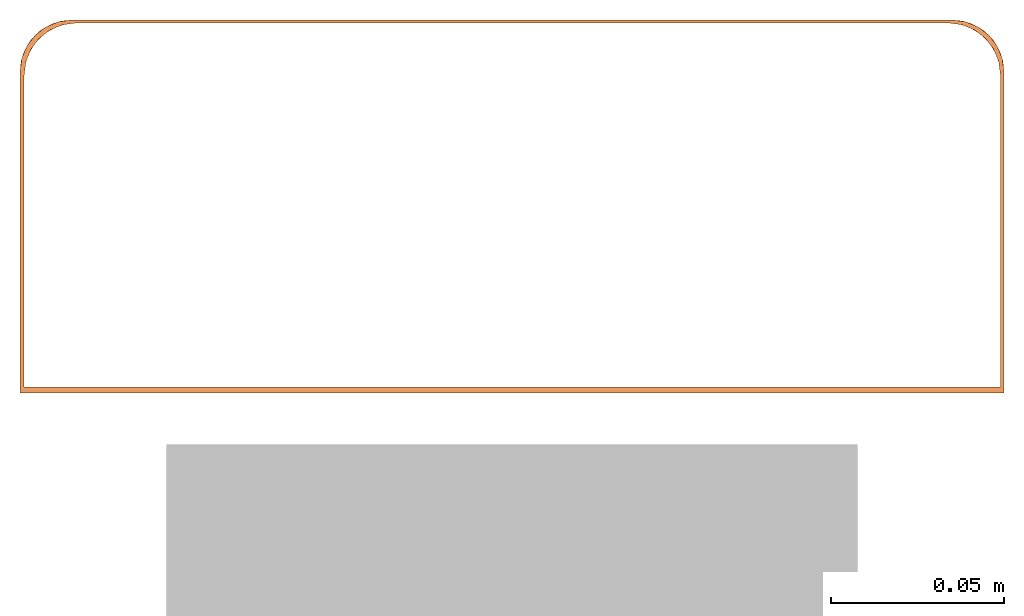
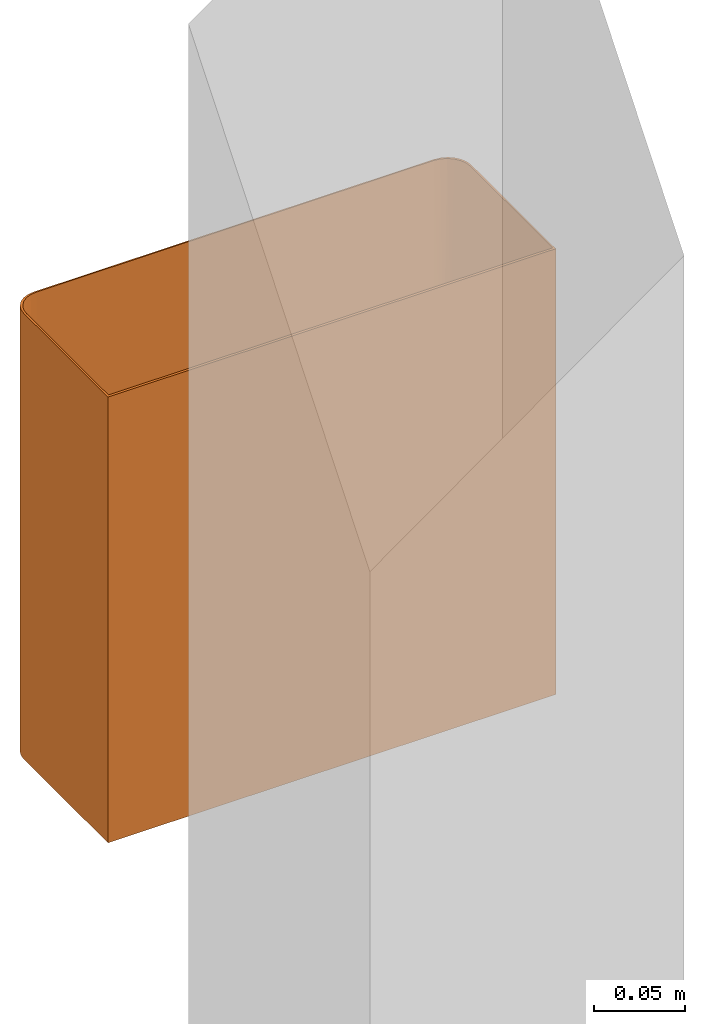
# One storey, part 2 of 2: 1 proxy.
"""IFC2X3 building model written with IfcOpenShell, lengths in millimetres."""

from ifc_helpers import new_model, entity, si_unit, converted_unit, derived_unit, direction, frame, origin, place, context, subcontext, project, spatial, faceted_brep, source, transform, mapped, element, save


model = new_model("IFC2X3")

# Units and contexts
model_context = context("Model", 3, precision=0.01, world=origin(), true_north=direction((6.12303176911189e-17, 1.0)))
context_of_model = context(None, 3, precision=0.01, world=origin(), true_north=direction((6.12303176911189e-17, 1.0)))
body_context = subcontext(model_context, "Body", "Model", "MODEL_VIEW")
ifc_project = project(units=[si_unit("LENGTHUNIT", "METRE", prefix="MILLI"), si_unit("AREAUNIT", "SQUARE_METRE"), si_unit("VOLUMEUNIT", "CUBIC_METRE"), converted_unit("PLANEANGLEUNIT", "DEGREE", entity("IfcRatioMeasure", 0.0174532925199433), si_unit("PLANEANGLEUNIT", "RADIAN"), dimensions=[0, 0, 0, 0, 0, 0, 0]), si_unit("MASSUNIT", "GRAM", prefix="KILO"), si_unit("TIMEUNIT", "SECOND"), si_unit("FREQUENCYUNIT", "HERTZ"), si_unit("THERMODYNAMICTEMPERATUREUNIT", "DEGREE_CELSIUS"), derived_unit("THERMALTRANSMITTANCEUNIT", [(si_unit("MASSUNIT", "GRAM", prefix="KILO"), 1), (si_unit("THERMODYNAMICTEMPERATUREUNIT", "KELVIN"), -1), (si_unit("TIMEUNIT", "SECOND"), -3)]), derived_unit("VOLUMETRICFLOWRATEUNIT", [(si_unit("LENGTHUNIT", "METRE"), 3), (si_unit("TIMEUNIT", "SECOND"), -1)]), si_unit("ELECTRICCURRENTUNIT", "AMPERE"), si_unit("ELECTRICVOLTAGEUNIT", "VOLT"), si_unit("POWERUNIT", "WATT"), si_unit("FORCEUNIT", "NEWTON", prefix="KILO"), si_unit("ILLUMINANCEUNIT", "LUX"), si_unit("LUMINOUSFLUXUNIT", "LUMEN"), si_unit("LUMINOUSINTENSITYUNIT", "CANDELA"), si_unit("PRESSUREUNIT", "PASCAL")], contexts=[model_context, context_of_model])

# Site, building, storey
site_placement = place(None, origin())
site = spatial("IfcSite", under=ifc_project, at=site_placement, Name="Default", CompositionType="ELEMENT")
building_placement = place(site_placement, origin())
building = spatial("IfcBuilding", under=site, at=building_placement, CompositionType="ELEMENT")
storey_placement = place(building_placement, origin())
storey = spatial("IfcBuildingStorey", under=building, at=storey_placement, Name="Level 1", CompositionType="ELEMENT", Elevation=0.0)

# Proxy
shared_shape = source(origin(), body_context, "Body", "Brep", [
    faceted_brep([(286.595272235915, 0.0, 301.595272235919), (286.595272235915, 93.0, 301.595272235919), (285.54516481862, 1.64446782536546, 301.595272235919), (2.82583737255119, 1.64446782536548, 301.595272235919), (1.595272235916, 0.0, 301.595272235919), (285.54516481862, 92.1228222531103, 301.595272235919), (285.034052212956, 96.0051079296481, 301.595272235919), (286.084159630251, 96.8822856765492, 301.595272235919), (283.535545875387, 99.6228222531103, 301.595272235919), (284.585653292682, 100.500000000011, 301.595272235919), (281.151766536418, 102.729423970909, 301.595272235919), (282.201873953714, 103.60660171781, 301.595272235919), (279.095272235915, 105.990381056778, 301.595272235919), (278.04516481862, 105.113203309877, 301.595272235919), (275.477557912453, 107.488887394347, 301.595272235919), (274.427450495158, 106.611709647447, 301.595272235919), (271.595272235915, 108.0, 301.595272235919), (270.54516481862, 107.122822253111, 301.595272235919), (17.8258373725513, 107.122822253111, 301.595272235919), (16.5952722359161, 108.0, 301.595272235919), (13.9435516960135, 106.611709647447, 301.595272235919), (12.7129865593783, 107.488887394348, 301.595272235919), (10.3258373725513, 105.113203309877, 301.595272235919), (9.09527223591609, 105.990381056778, 301.595272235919), (7.2192356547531, 102.729423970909, 301.595272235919), (5.98867051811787, 103.60660171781, 301.595272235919), (4.8354563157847, 99.6228222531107, 301.595272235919), (3.60489117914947, 100.500000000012, 301.595272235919), (2.10638484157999, 96.8822856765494, 301.595272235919), (3.33694997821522, 96.0051079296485, 301.595272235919), (1.595272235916, 93.0, 301.595272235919), (2.82583737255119, 92.1228222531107, 301.595272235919), (270.54516481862, 107.122822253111, 1.59527223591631), (189.095272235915, 107.122822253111, 1.59527223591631), (189.095272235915, 108.0, 1.59527223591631), (271.595272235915, 108.0, 1.59527223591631), (275.477557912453, 107.488887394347, 1.59527223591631), (279.095272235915, 105.990381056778, 1.59527223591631), (282.201873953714, 103.60660171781, 1.59527223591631), (284.585653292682, 100.500000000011, 1.59527223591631), (286.084159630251, 96.8822856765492, 1.59527223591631), (286.595272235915, 93.0, 1.59527223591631), (286.595272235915, 0.0, 1.59527223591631), (1.595272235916, 0.0, 1.59527223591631), (1.595272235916, 93.0, 1.59527223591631), (2.10638484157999, 96.8822856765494, 1.59527223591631), (3.60489117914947, 100.500000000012, 1.59527223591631), (5.98867051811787, 103.60660171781, 1.59527223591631), (9.09527223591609, 105.990381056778, 1.59527223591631), (12.7129865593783, 107.488887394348, 1.59527223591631), (16.595272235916, 108.0, 1.59527223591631), (99.0952722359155, 108.0, 1.59527223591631), (99.0952722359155, 107.122822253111, 1.59527223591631), (17.8258373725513, 107.122822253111, 1.59527223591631), (13.9435516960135, 106.611709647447, 1.59527223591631), (10.3258373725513, 105.113203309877, 1.59527223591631), (7.2192356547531, 102.729423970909, 1.59527223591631), (4.8354563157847, 99.6228222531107, 1.59527223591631), (3.33694997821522, 96.0051079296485, 1.59527223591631), (2.82583737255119, 92.1228222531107, 1.59527223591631), (2.82583737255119, 1.64446782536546, 1.59527223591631), (285.54516481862, 1.64446782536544, 1.59527223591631), (285.54516481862, 92.1228222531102, 1.59527223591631), (285.034052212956, 96.0051079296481, 1.59527223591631), (283.535545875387, 99.6228222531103, 1.59527223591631), (281.151766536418, 102.729423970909, 1.59527223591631), (278.04516481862, 105.113203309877, 1.59527223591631), (274.427450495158, 106.611709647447, 1.59527223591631), (286.595272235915, 93.0, 151.595272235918), (285.453465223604, 98.7402514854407, 151.595272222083), (277.335523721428, 106.858192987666, 151.595272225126), (280.726693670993, 104.900300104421, 89.7924200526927), (280.726693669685, 104.900300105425, 194.579441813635), (283.495572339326, 102.13142143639, 213.398124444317), (283.495572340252, 102.131421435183, 108.61110270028), (286.307051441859, 95.9263548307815, 97.9391592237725), (274.521627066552, 107.711779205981, 205.251385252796), (286.307051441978, 95.9263548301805, 191.89434677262), (271.595272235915, 108.0, 151.595272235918), (274.521627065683, 107.711779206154, 111.29619776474), (154.701873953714, 108.0, 181.444035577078), (151.595272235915, 108.0, 183.827814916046), (157.085653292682, 108.0, 178.337433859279), (147.977557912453, 108.0, 185.326321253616), (144.095272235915, 108.0, 185.837433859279), (158.584159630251, 108.0, 174.719719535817), (159.095272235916, 108.0, 170.83743385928), (158.584159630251, 108.0, 166.955148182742), (157.085653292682, 108.0, 163.337433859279), (175.91507738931, 108.0, 33.4150773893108), (179.490746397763, 108.0, 28.7551748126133), (183.066415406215, 108.0, 24.0952722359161), (185.31417491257, 108.0, 18.6687007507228), (187.561934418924, 108.0, 13.2421292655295), (188.32860332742, 108.0, 7.41870075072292), (154.701873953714, 108.0, 160.230832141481), (171.255174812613, 108.0, 36.9907463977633), (166.595272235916, 108.0, 40.566415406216), (151.595272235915, 108.0, 157.847052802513), (161.168700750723, 108.0, 42.8141749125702), (155.742129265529, 108.0, 45.0619344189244), (147.977557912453, 108.0, 156.348546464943), (149.918700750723, 108.0, 45.8286033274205), (144.095272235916, 108.0, 46.5952722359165), (144.095272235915, 108.0, 155.837433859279), (140.212986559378, 108.0, 156.348546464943), (138.271843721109, 108.0, 45.8286033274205), (132.448415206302, 108.0, 45.0619344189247), (136.595272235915, 108.0, 157.847052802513), (127.021843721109, 108.0, 42.8141749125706), (121.595272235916, 108.0, 40.5664154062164), (133.488670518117, 108.0, 160.230832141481), (116.935369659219, 108.0, 36.990746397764), (112.275467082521, 108.0, 33.4150773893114), (131.104891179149, 108.0, 163.337433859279), (108.699798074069, 108.0, 28.7551748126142), (105.124129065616, 108.0, 24.0952722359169), (102.876369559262, 108.0, 18.6687007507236), (100.628610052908, 108.0, 13.2421292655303), (99.8619411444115, 108.0, 7.41870075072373), (129.606384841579, 108.0, 166.955148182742), (129.095272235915, 108.0, 170.837433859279), (16.5952722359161, 108.0, 151.595296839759), (140.212986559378, 108.0, 185.326321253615), (136.595272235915, 108.0, 183.827814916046), (133.488670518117, 108.0, 181.444035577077), (131.104891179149, 108.0, 178.337433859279), (129.606384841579, 108.0, 174.719719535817), (10.8550207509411, 106.858192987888, 151.595272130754), (2.73707924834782, 98.740251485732, 151.595272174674), (4.69497213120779, 102.1314214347, 89.7924199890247), (4.69497212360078, 102.131421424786, 194.579441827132), (7.46385078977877, 104.900300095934, 213.398124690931), (7.46385080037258, 104.900300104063, 108.611102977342), (13.6689173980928, 107.711779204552, 97.9391595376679), (1.88349303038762, 95.9263548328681, 205.251385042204), (13.6689174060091, 107.711779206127, 191.894348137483), (1.595272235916, 93.0, 151.595499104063), (1.88349302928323, 95.9263548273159, 111.296196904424), (285.54516481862, 92.1228222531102, 151.595272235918), (284.403357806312, 97.863073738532, 151.595272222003), (279.676586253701, 104.023122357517, 89.7924200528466), (276.285416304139, 105.981015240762, 151.595272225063), (282.445464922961, 101.254243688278, 108.611102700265), (282.445464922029, 101.254243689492, 213.398124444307), (279.676586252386, 104.023122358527, 194.579441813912), (285.256944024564, 95.0491770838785, 97.9391592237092), (273.471519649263, 106.834601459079, 205.251385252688), (285.256944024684, 95.0491770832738, 191.894346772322), (273.471519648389, 106.834601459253, 111.296197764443), (270.54516481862, 107.122822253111, 151.595272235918), (151.595272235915, 107.122822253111, 183.827814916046), (154.701873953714, 107.122822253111, 181.444035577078), (147.977557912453, 107.122822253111, 185.326321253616), (157.085653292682, 107.122822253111, 178.337433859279), (158.584159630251, 107.122822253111, 174.719719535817), (159.095272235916, 107.122822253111, 170.837433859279), (158.584159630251, 107.122822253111, 166.955148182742), (157.085653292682, 107.122822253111, 163.337433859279), (175.91507738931, 107.122822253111, 33.4150773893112), (154.701873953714, 107.122822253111, 160.230832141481), (171.255174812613, 107.122822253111, 36.9907463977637), (166.595272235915, 107.122822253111, 40.5664154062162), (151.595272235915, 107.122822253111, 157.847052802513), (161.168700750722, 107.122822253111, 42.8141749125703), (155.742129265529, 107.122822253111, 45.0619344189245), (147.977557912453, 107.122822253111, 156.348546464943), (149.918700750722, 107.122822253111, 45.8286033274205), (144.095272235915, 107.122822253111, 46.5952722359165), (144.095272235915, 107.122822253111, 155.837433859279), (140.212986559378, 107.122822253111, 156.348546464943), (138.271843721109, 107.122822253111, 45.8286033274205), (132.448415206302, 107.122822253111, 45.0619344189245), (136.595272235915, 107.122822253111, 157.847052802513), (127.021843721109, 107.122822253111, 42.8141749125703), (121.595272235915, 107.122822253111, 40.5664154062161), (133.488670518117, 107.122822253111, 160.230832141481), (116.935369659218, 107.122822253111, 36.9907463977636), (112.275467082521, 107.122822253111, 33.415077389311), (131.104891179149, 107.122822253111, 163.337433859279), (129.606384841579, 107.122822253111, 166.955148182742), (129.095272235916, 107.122822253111, 170.837433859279), (17.8258373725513, 107.122822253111, 151.595272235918), (129.606384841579, 107.122822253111, 174.719719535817), (131.104891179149, 107.122822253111, 178.337433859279), (133.488670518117, 107.122822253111, 181.444035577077), (136.595272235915, 107.122822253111, 183.827814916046), (140.212986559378, 107.122822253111, 185.326321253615), (144.095272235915, 107.122822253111, 185.837433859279), (108.699798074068, 107.122822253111, 28.7551748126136), (105.124129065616, 107.122822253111, 24.0952722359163), (102.876369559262, 107.122822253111, 18.6687007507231), (100.628610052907, 107.122822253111, 13.2421292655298), (99.8619411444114, 107.122822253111, 7.41870075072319), (179.490746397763, 107.122822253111, 28.7551748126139), (183.066415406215, 107.122822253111, 24.0952722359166), (185.314174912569, 107.122822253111, 18.6687007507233), (187.561934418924, 107.122822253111, 13.2421292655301), (188.142584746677, 107.122822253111, 8.83165215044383), (188.618928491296, 107.122822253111, 5.21346219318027), (12.0855858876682, 105.981015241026, 151.59527213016), (5.9255372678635, 101.254243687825, 89.7924199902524), (3.96764438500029, 97.8630737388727, 151.595272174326), (8.69441593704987, 104.023122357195, 108.611102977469), (8.69441592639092, 104.023122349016, 213.398124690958), (5.92553726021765, 101.254243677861, 194.579441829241), (14.8994825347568, 106.834601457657, 97.9391595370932), (3.11405816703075, 95.0491770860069, 205.251385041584), (14.8994825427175, 106.83460145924, 191.894348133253), (3.11405816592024, 95.049177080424, 111.296196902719), (2.82583737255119, 92.1228222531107, 151.595272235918)], [[[0, 1, 2]], [[0, 2, 3]], [[3, 4, 0]], [[5, 2, 1]], [[1, 6, 5]], [[7, 6, 1]], [[6, 7, 8]], [[9, 8, 7]], [[10, 8, 9]], [[11, 10, 9]], [[10, 11, 12]], [[12, 13, 10]], [[13, 12, 14]], [[14, 15, 13]], [[15, 14, 16]], [[16, 17, 15]], [[17, 16, 18]], [[19, 18, 16]], [[18, 19, 20]], [[21, 20, 19]], [[20, 21, 22]], [[23, 22, 21]], [[22, 23, 24]], [[25, 24, 23]], [[24, 25, 26]], [[25, 27, 26]], [[26, 27, 28]], [[28, 29, 26]], [[29, 28, 30]], [[3, 31, 30]], [[30, 4, 3]], [[31, 29, 30]], [[32, 33, 34, 35, 36, 37, 38, 39, 40, 41, 42, 43, 44, 45, 46, 47, 48, 49, 50, 51, 52, 53, 54, 55, 56, 57, 58, 59, 60, 61, 62, 63, 64, 65, 66, 67]], [[0, 42, 41, 68, 1]], [[69, 40, 39]], [[70, 71, 37]], [[72, 73, 74, 71]], [[74, 69, 39]], [[39, 38, 74]], [[75, 40, 69]], [[76, 16, 14]], [[77, 1, 68, 41, 75]], [[9, 7, 69]], [[40, 75, 41]], [[69, 74, 73]], [[70, 37, 36]], [[74, 38, 71]], [[73, 72, 11]], [[35, 78, 16, 76, 79]], [[38, 37, 71]], [[72, 70, 12]], [[70, 14, 12]], [[70, 76, 14]], [[9, 73, 11]], [[70, 72, 71]], [[69, 73, 9]], [[72, 12, 11]], [[77, 75, 69]], [[69, 7, 77]], [[1, 77, 7]], [[79, 76, 70]], [[70, 36, 79]], [[35, 79, 36]], [[16, 80, 81]], [[80, 16, 82]], [[81, 83, 16]], [[83, 84, 16]], [[16, 84, 19]], [[85, 82, 16]], [[86, 85, 16]], [[86, 16, 78]], [[86, 78, 35]], [[87, 86, 35]], [[35, 88, 87]], [[88, 35, 89]], [[35, 90, 89]], [[35, 91, 90]], [[35, 92, 91]], [[35, 93, 92]], [[35, 94, 93]], [[35, 34, 94]], [[89, 95, 88]], [[95, 89, 96]], [[95, 96, 97]], [[98, 95, 97]], [[98, 97, 99]], [[98, 99, 100]], [[101, 98, 100]], [[101, 100, 102]], [[101, 102, 103]], [[103, 104, 101]], [[104, 103, 105]], [[105, 103, 106]], [[105, 106, 107]], [[108, 105, 107]], [[108, 107, 109]], [[108, 109, 110]], [[111, 108, 110]], [[111, 110, 112]], [[111, 112, 113]], [[113, 114, 111]], [[50, 114, 113]], [[50, 113, 115]], [[50, 115, 116]], [[50, 116, 117]], [[50, 117, 118]], [[50, 118, 119]], [[50, 119, 51]], [[50, 120, 114]], [[121, 120, 50]], [[121, 50, 122]], [[121, 122, 19]], [[123, 19, 84]], [[123, 124, 19]], [[125, 19, 124]], [[19, 125, 126]], [[19, 126, 127]], [[127, 121, 19]], [[128, 49, 48]], [[129, 130, 46]], [[131, 132, 133, 130]], [[133, 128, 48]], [[48, 47, 133]], [[134, 49, 128]], [[135, 30, 28]], [[136, 19, 122, 50, 134]], [[23, 21, 128]], [[49, 134, 50]], [[128, 133, 132]], [[129, 46, 45]], [[133, 47, 130]], [[132, 131, 25]], [[44, 137, 30, 135, 138]], [[47, 46, 130]], [[131, 129, 27]], [[129, 28, 27]], [[129, 135, 28]], [[23, 132, 25]], [[129, 131, 130]], [[128, 132, 23]], [[131, 27, 25]], [[136, 134, 128]], [[128, 21, 136]], [[19, 136, 21]], [[138, 135, 129]], [[129, 45, 138]], [[44, 138, 45]], [[4, 30, 137, 44, 43]], [[0, 4, 43, 42]], [[61, 2, 5, 139, 62]], [[64, 63, 140]], [[66, 141, 142]], [[143, 144, 145, 141]], [[64, 140, 143]], [[143, 65, 64]], [[140, 63, 146]], [[15, 17, 147]], [[139, 5, 148, 146, 62]], [[140, 6, 8]], [[62, 146, 63]], [[144, 143, 140]], [[67, 66, 142]], [[141, 65, 143]], [[10, 145, 144]], [[149, 147, 17, 150, 32]], [[141, 66, 65]], [[13, 142, 145]], [[13, 15, 142]], [[15, 147, 142]], [[10, 144, 8]], [[141, 145, 142]], [[8, 144, 140]], [[10, 13, 145]], [[140, 146, 148]], [[148, 6, 140]], [[6, 148, 5]], [[142, 147, 149]], [[149, 67, 142]], [[67, 149, 32]], [[151, 152, 17]], [[17, 153, 151]], [[154, 17, 152]], [[17, 154, 155]], [[17, 155, 156]], [[156, 150, 17]], [[156, 32, 150]], [[32, 156, 157]], [[157, 158, 32]], [[159, 32, 158]], [[158, 160, 159]], [[160, 161, 159]], [[160, 162, 161]], [[162, 160, 163]], [[163, 164, 162]], [[163, 165, 164]], [[165, 163, 166]], [[166, 167, 165]], [[166, 168, 167]], [[166, 169, 168]], [[170, 168, 169]], [[170, 171, 168]], [[170, 172, 171]], [[172, 170, 173]], [[173, 174, 172]], [[173, 175, 174]], [[175, 173, 176]], [[176, 177, 175]], [[176, 178, 177]], [[176, 179, 178]], [[178, 179, 53]], [[179, 180, 53]], [[53, 180, 181]], [[181, 182, 53]], [[181, 18, 182]], [[18, 181, 183]], [[183, 184, 18]], [[184, 185, 18]], [[186, 18, 185]], [[18, 186, 187]], [[188, 18, 187]], [[17, 188, 153]], [[18, 188, 17]], [[53, 189, 178]], [[53, 190, 189]], [[53, 191, 190]], [[53, 192, 191]], [[53, 193, 192]], [[53, 52, 193]], [[32, 159, 194]], [[32, 194, 195]], [[32, 195, 196]], [[32, 196, 197]], [[32, 197, 198]], [[32, 198, 199]], [[32, 199, 33]], [[55, 54, 200]], [[57, 201, 202]], [[203, 204, 205, 201]], [[55, 200, 203]], [[203, 56, 55]], [[200, 54, 206]], [[29, 31, 207]], [[182, 18, 208, 206, 53]], [[200, 20, 22]], [[53, 206, 54]], [[204, 203, 200]], [[58, 57, 202]], [[201, 56, 203]], [[24, 205, 204]], [[209, 207, 31, 210, 59]], [[201, 57, 56]], [[26, 202, 205]], [[26, 29, 202]], [[29, 207, 202]], [[24, 204, 22]], [[201, 205, 202]], [[22, 204, 200]], [[24, 26, 205]], [[200, 206, 208]], [[208, 20, 200]], [[20, 208, 18]], [[202, 207, 209]], [[209, 58, 202]], [[58, 209, 59]], [[3, 60, 59, 210, 31]], [[61, 60, 3, 2]], [[94, 34, 33, 199, 198, 197, 93]], [[118, 192, 193, 52, 51, 119]], [[197, 196, 195, 91, 92, 93]], [[159, 161, 162, 97, 96, 89]], [[192, 118, 117, 116, 190, 191]], [[195, 194, 159, 89, 90, 91]], [[162, 164, 165, 100, 99, 97]], [[103, 102, 100, 165, 167, 168]], [[168, 171, 172, 107, 106, 103]], [[112, 110, 175, 177, 178, 113]], [[190, 116, 115, 113, 178, 189]], [[172, 174, 175, 110, 109, 107]], [[120, 121, 181, 180]], [[120, 180, 179, 114]], [[108, 111, 176, 173]], [[111, 114, 179, 176]], [[105, 108, 173, 170]], [[170, 169, 104, 105]], [[163, 160, 95, 98]], [[166, 163, 98, 101]], [[157, 156, 86, 87]], [[158, 157, 87, 88]], [[160, 158, 88, 95]], [[101, 104, 169, 166]], [[85, 86, 156, 155]], [[85, 155, 154, 82]], [[81, 80, 152, 151]], [[80, 82, 154, 152]], [[83, 81, 151, 153]], [[153, 188, 84, 83]], [[186, 185, 125, 124]], [[187, 186, 124, 123]], [[183, 181, 121, 127]], [[184, 183, 127, 126]], [[185, 184, 126, 125]], [[123, 84, 188, 187]]]),
])
proxy_placement = place(storey_placement, frame((-633.453517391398, 41.706937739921, 998.404727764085)))
element("IfcBuildingElementProxy", 1, at=proxy_placement, inside=storey, Name="14708002004b:d_line_Sanitary_WallMountedPanels_PaperTowelDispenser_Lidless", ObjectType="d_line_Sanitary_WallMountedPanels_PaperTowelDispenser_Lidless", CompositionType="ELEMENT", context=body_context, shape_type="MappedRepresentation", body=[
    mapped(shared_shape, transform((0.0, 0.0, 0.0), scale=1.0)),
])

save(model, "model.ifc")
